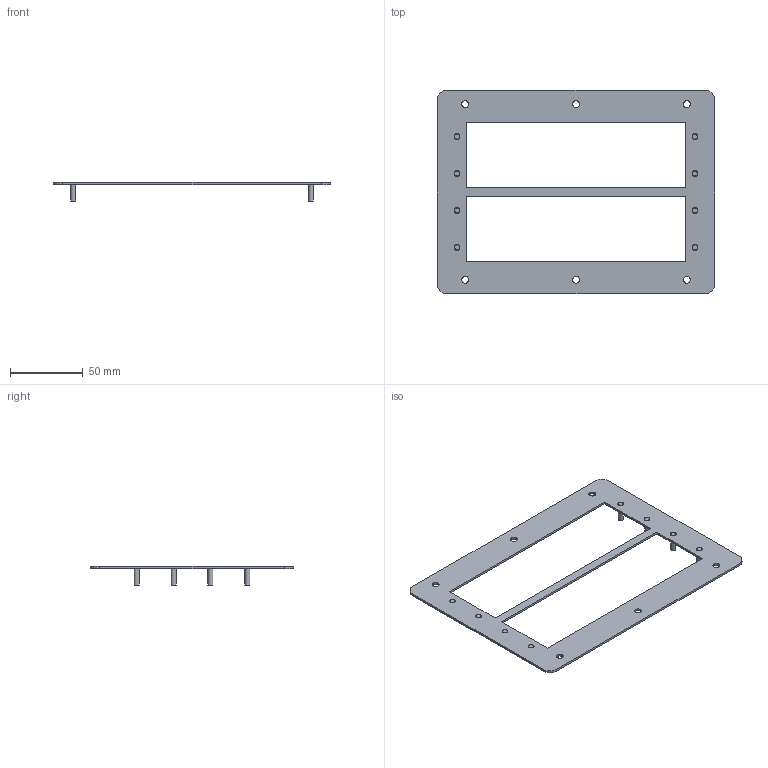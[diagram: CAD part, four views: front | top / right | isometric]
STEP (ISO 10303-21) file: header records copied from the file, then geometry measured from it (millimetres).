
FILE_DESCRIPTION((''),'2;1');
FILE_NAME('D:\scratch\ideas\mtg_plate_dual_cd_drive.stp', '2005-10-10T10:10:20',('User'),('SDRC'),'I-DEAS Master Series 9','UNIX', 'Yes');
FILE_SCHEMA(('AUTOMOTIVE_DESIGN { 1 0 10303 214 0 1 1 1 }'));
Length unit declared in the file: inch
Products named in the file (3): 87796365; 99401427
Assembly tree (9 placements, depth 2):
  87796365
    87796365
    99401427  x8
Bounding box: 190.5 x 139.7 x 13.21 mm (x, y, z)
Volume: 20797.9 mm3; surface area: 29765.6 mm2
Topology: 9 solids, 9 shells, 80 faces, 154 edges, 100 vertices
Faces by surface type: bspline 80
Entity records: 1659 total; most frequent: CARTESIAN_POINT 795, ORIENTED_EDGE 196, EDGE_CURVE 98, EDGE_LOOP 71, VERTEX_POINT 65, DIRECTION 38, FACE_OUTER_BOUND 38, ADVANCED_FACE 38
